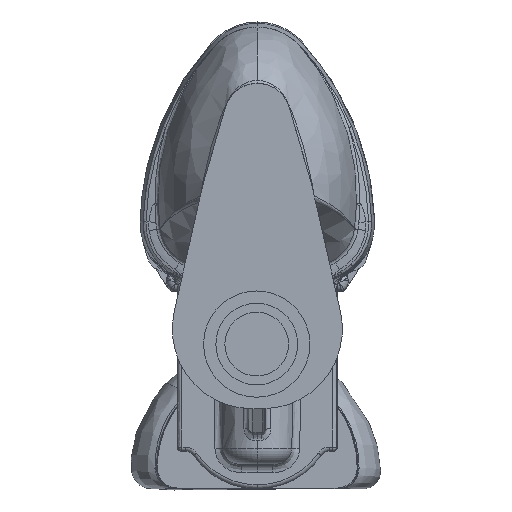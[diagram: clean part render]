
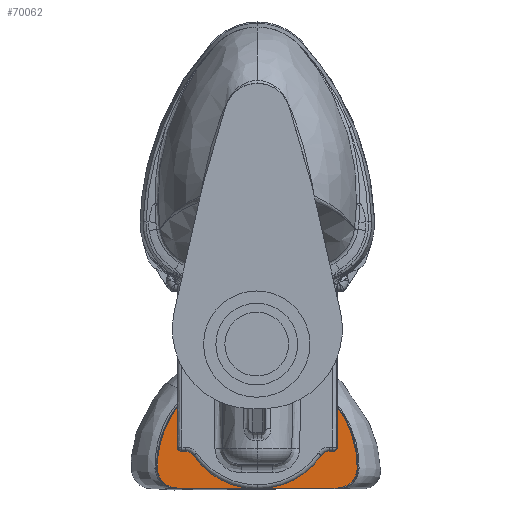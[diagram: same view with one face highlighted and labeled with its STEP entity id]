
A CAD part, front view. The second image highlights one B-rep face of the part: STEP entity #70062.
In plain terms, the highlighted planar face has unit normal (0, -1, 0).
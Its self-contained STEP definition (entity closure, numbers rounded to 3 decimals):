
#527 = DIRECTION ( 'NONE',  ( 1., 0., 0. ) ) ;
#608 = CARTESIAN_POINT ( 'NONE',  ( -97.503, 3., -284. ) ) ;
#1212 = CARTESIAN_POINT ( 'NONE',  ( -113.334, 3., -212.339 ) ) ;
#1602 = CARTESIAN_POINT ( 'NONE',  ( -27.032, 3., -139.003 ) ) ;
#2003 = CARTESIAN_POINT ( 'NONE',  ( -107.04, 3., -199.038 ) ) ;
#2409 = CARTESIAN_POINT ( 'NONE',  ( -20.84, 3., -137.768 ) ) ;
#2812 = CARTESIAN_POINT ( 'NONE',  ( -82.355, 3., -167.844 ) ) ;
#4020 = CARTESIAN_POINT ( 'NONE',  ( -116.215, 3., -220.241 ) ) ;
#4291 = AXIS2_PLACEMENT_3D ( 'NONE', #16171, #34573, #29249 ) ;
#5092 = AXIS2_PLACEMENT_3D ( 'NONE', #6479, #31419, #56344 ) ;
#6479 = CARTESIAN_POINT ( 'NONE',  ( -0.003, 3., -258.21 ) ) ;
#8405 = ORIENTED_EDGE ( 'NONE', *, *, #33271, .T. ) ;
#8541 = CARTESIAN_POINT ( 'NONE',  ( -12.516, 3., -136.622 ) ) ;
#8942 = CARTESIAN_POINT ( 'NONE',  ( -65.663, 3., -155.088 ) ) ;
#9177 = EDGE_CURVE ( 'NONE', #19152, #76435, #75839, .T. ) ;
#10143 = CARTESIAN_POINT ( 'NONE',  ( -122.035, 3., -251.153 ) ) ;
#12254 = CARTESIAN_POINT ( 'NONE',  ( -121.609, 3., -264.864 ) ) ;
#13467 = CARTESIAN_POINT ( 'NONE',  ( -39.169, 3., -142.418 ) ) ;
#13864 = CARTESIAN_POINT ( 'NONE',  ( -8.324, 3., -136.264 ) ) ;
#14265 = CARTESIAN_POINT ( 'NONE',  ( -24.973, 3., -138.555 ) ) ;
#14671 = CARTESIAN_POINT ( 'NONE',  ( 8.484, 3., -136.295 ) ) ;
#16171 = CARTESIAN_POINT ( 'NONE',  ( 97.497, 3., -259.296 ) ) ;
#16651 = VERTEX_POINT ( 'NONE', #28788 ) ;
#16713 = CARTESIAN_POINT ( 'NONE',  ( 122.199, 3., -259.571 ) ) ;
#17238 = VERTEX_POINT ( 'NONE', #42349 ) ;
#19152 = VERTEX_POINT ( 'NONE', #34644 ) ;
#19998 = CARTESIAN_POINT ( 'NONE',  ( -101.533, 3., -190.081 ) ) ;
#21518 = EDGE_CURVE ( 'NONE', #31109, #19152, #79390, .T. ) ;
#21604 = CARTESIAN_POINT ( 'NONE',  ( -104.913, 3., -195.413 ) ) ;
#22014 = CARTESIAN_POINT ( 'NONE',  ( -120.313, 3., -236.543 ) ) ;
#22234 = B_SPLINE_CURVE_WITH_KNOTS ( 'NONE', 3,
 ( #14671, #52272, #51460, #71059, #13864, #8541, #26146, #2409, #14265, #1602, #63733, #76387, #77199, #13467, #39216, #40012, #64925, #57594, #44932, #57196, #8942, #38421, #51075, #58800, #57993, #26537, #2812, #33068, #27749, #26932, #52673, #19998, #77591, #21604, #2003, #69467, #63331, #32277, #1212, #76003, #72669, #4020, #53077, #66133, #22014, #28962, #41619, #46541, #22409, #10143, #54274, #28152, #60420 ),
 .UNSPECIFIED., .F., .F.,
 ( 4, 2, 2, 1, 2, 2, 2, 2, 2, 2, 2, 2, 1, 2, 2, 2, 2, 2, 1, 2, 2, 2, 2, 2, 2, 2, 2, 4 ),
 ( 0., 0.013, 0.019, 0.025, 0.032, 0.038, 0.044, 0.05, 0.063, 0.069, 0.076, 0.082, 0.088, 0.095, 0.101, 0.113, 0.126, 0.132, 0.139, 0.145, 0.151, 0.158, 0.164, 0.176, 0.183, 0.189, 0.195, 0.202 ),
 .UNSPECIFIED. ) ;
#22409 = CARTESIAN_POINT ( 'NONE',  ( -121.896, 3., -249.052 ) ) ;
#22712 = FACE_OUTER_BOUND ( 'NONE', #28123, .T. ) ;
#26146 = CARTESIAN_POINT ( 'NONE',  ( -16.693, 3., -137.088 ) ) ;
#26537 = CARTESIAN_POINT ( 'NONE',  ( -80.785, 3., -166.439 ) ) ;
#26932 = CARTESIAN_POINT ( 'NONE',  ( -95.352, 3., -181.584 ) ) ;
#27515 = ORIENTED_EDGE ( 'NONE', *, *, #9177, .T. ) ;
#27749 = CARTESIAN_POINT ( 'NONE',  ( -89.851, 3., -175.207 ) ) ;
#28052 = DIRECTION ( 'NONE',  ( 0., 0., 1. ) ) ;
#28123 = EDGE_LOOP ( 'NONE', ( #54738, #65666, #27515, #34015, #8405, #43994 ) ) ;
#28152 = CARTESIAN_POINT ( 'NONE',  ( -122.233, 3., -257.464 ) ) ;
#28419 = CARTESIAN_POINT ( 'NONE',  ( -97.503, 3., -259.296 ) ) ;
#28788 = CARTESIAN_POINT ( 'NONE',  ( 97.497, 3., -284. ) ) ;
#28874 = AXIS2_PLACEMENT_3D ( 'NONE', #28419, #53343, #78262 ) ;
#28962 = CARTESIAN_POINT ( 'NONE',  ( -120.667, 3., -238.618 ) ) ;
#29249 = DIRECTION ( 'NONE',  ( 0., 0., 1. ) ) ;
#29866 = CARTESIAN_POINT ( 'NONE',  ( -122.068, 3., -262.245 ) ) ;
#30665 = CARTESIAN_POINT ( 'NONE',  ( -121.274, 3., -266.156 ) ) ;
#31109 = VERTEX_POINT ( 'NONE', #55643 ) ;
#31198 = CARTESIAN_POINT ( 'NONE',  ( 97.497, 3., -284. ) ) ;
#31419 = DIRECTION ( 'NONE',  ( 0., -1., 0. ) ) ;
#32277 = CARTESIAN_POINT ( 'NONE',  ( -111.692, 3., -208.47 ) ) ;
#33068 = CARTESIAN_POINT ( 'NONE',  ( -86.946, 3., -172.17 ) ) ;
#33271 = EDGE_CURVE ( 'NONE', #16651, #55046, #39546, .T. ) ;
#34015 = ORIENTED_EDGE ( 'NONE', *, *, #54006, .T. ) ;
#34573 = DIRECTION ( 'NONE',  ( 0., -1., 0. ) ) ;
#34581 = CARTESIAN_POINT ( 'NONE',  ( -0.003, 3., -258.21 ) ) ;
#34644 = CARTESIAN_POINT ( 'NONE',  ( -120.83, 3., -267.428 ) ) ;
#38421 = CARTESIAN_POINT ( 'NONE',  ( -67.428, 3., -156.233 ) ) ;
#39216 = CARTESIAN_POINT ( 'NONE',  ( -45.115, 3., -144.541 ) ) ;
#39546 = CIRCLE ( 'NONE', #4291, 24.704 ) ;
#40012 = CARTESIAN_POINT ( 'NONE',  ( -48.994, 3., -146.156 ) ) ;
#40999 = EDGE_CURVE ( 'NONE', #55046, #17238, #46877, .T. ) ;
#41619 = CARTESIAN_POINT ( 'NONE',  ( -121.266, 3., -242.779 ) ) ;
#42349 = CARTESIAN_POINT ( 'NONE',  ( 8.484, 3., -136.295 ) ) ;
#43994 = ORIENTED_EDGE ( 'NONE', *, *, #40999, .T. ) ;
#44932 = CARTESIAN_POINT ( 'NONE',  ( -60.258, 3., -151.844 ) ) ;
#46541 = CARTESIAN_POINT ( 'NONE',  ( -121.512, 3., -244.865 ) ) ;
#46877 = CIRCLE ( 'NONE', #5092, 122.21 ) ;
#48459 = DIRECTION ( 'NONE',  ( 0., 1., 0. ) ) ;
#49523 = EDGE_CURVE ( 'NONE', #17238, #31109, #22234, .T. ) ;
#51075 = CARTESIAN_POINT ( 'NONE',  ( -70.901, 3., -158.613 ) ) ;
#51460 = CARTESIAN_POINT ( 'NONE',  ( 0.081, 3., -135.928 ) ) ;
#52272 = CARTESIAN_POINT ( 'NONE',  ( 4.283, 3., -136.003 ) ) ;
#52673 = CARTESIAN_POINT ( 'NONE',  ( -97.928, 3., -184.905 ) ) ;
#53077 = CARTESIAN_POINT ( 'NONE',  ( -118.067, 3., -226.273 ) ) ;
#53249 = AXIS2_PLACEMENT_3D ( 'NONE', #34581, #48459, #28052 ) ;
#53343 = DIRECTION ( 'NONE',  ( 0., -1., 0. ) ) ;
#54006 = EDGE_CURVE ( 'NONE', #76435, #16651, #68783, .T. ) ;
#54274 = CARTESIAN_POINT ( 'NONE',  ( -122.203, 3., -255.359 ) ) ;
#54738 = ORIENTED_EDGE ( 'NONE', *, *, #49523, .T. ) ;
#55046 = VERTEX_POINT ( 'NONE', #16713 ) ;
#55189 = CARTESIAN_POINT ( 'NONE',  ( -122.193, 3., -260.916 ) ) ;
#55643 = CARTESIAN_POINT ( 'NONE',  ( -122.209, 3., -259.569 ) ) ;
#56344 = DIRECTION ( 'NONE',  ( 0., 0., 1. ) ) ;
#57196 = CARTESIAN_POINT ( 'NONE',  ( -62.078, 3., -152.894 ) ) ;
#57594 = CARTESIAN_POINT ( 'NONE',  ( -56.564, 3., -149.837 ) ) ;
#57993 = CARTESIAN_POINT ( 'NONE',  ( -77.579, 3., -163.716 ) ) ;
#58800 = CARTESIAN_POINT ( 'NONE',  ( -74.307, 3., -161.079 ) ) ;
#60420 = CARTESIAN_POINT ( 'NONE',  ( -122.209, 3., -259.569 ) ) ;
#63331 = CARTESIAN_POINT ( 'NONE',  ( -110.821, 3., -206.554 ) ) ;
#63733 = CARTESIAN_POINT ( 'NONE',  ( -31.116, 3., -140.002 ) ) ;
#64787 = VECTOR ( 'NONE', #527, 1000. ) ;
#64925 = CARTESIAN_POINT ( 'NONE',  ( -54.687, 3., -148.879 ) ) ;
#65666 = ORIENTED_EDGE ( 'NONE', *, *, #21518, .T. ) ;
#66133 = CARTESIAN_POINT ( 'NONE',  ( -119.092, 3., -230.349 ) ) ;
#66441 = PLANE ( 'NONE',  #53249 ) ;
#67446 = CARTESIAN_POINT ( 'NONE',  ( -122.209, 3., -259.569 ) ) ;
#68783 = LINE ( 'NONE', #31198, #64787 ) ;
#69467 = CARTESIAN_POINT ( 'NONE',  ( -108.978, 3., -202.769 ) ) ;
#70062 = ADVANCED_FACE ( 'NONE', ( #22712 ), #66441, .F. ) ;
#71059 = CARTESIAN_POINT ( 'NONE',  ( -6.221, 3., -136.139 ) ) ;
#72669 = CARTESIAN_POINT ( 'NONE',  ( -115.545, 3., -218.243 ) ) ;
#75839 = CIRCLE ( 'NONE', #28874, 24.704 ) ;
#76003 = CARTESIAN_POINT ( 'NONE',  ( -114.105, 3., -214.294 ) ) ;
#76387 = CARTESIAN_POINT ( 'NONE',  ( -33.143, 3., -140.553 ) ) ;
#76435 = VERTEX_POINT ( 'NONE', #608 ) ;
#77199 = CARTESIAN_POINT ( 'NONE',  ( -37.169, 3., -141.761 ) ) ;
#77591 = CARTESIAN_POINT ( 'NONE',  ( -102.692, 3., -191.841 ) ) ;
#78262 = DIRECTION ( 'NONE',  ( 0., 0., 1. ) ) ;
#79390 = B_SPLINE_CURVE_WITH_KNOTS ( 'NONE', 3,
 ( #67446, #55189, #29866, #12254, #30665, #80507 ),
 .UNSPECIFIED., .F., .F.,
 ( 4, 2, 4 ),
 ( 0., 0.004, 0.008 ),
 .UNSPECIFIED. ) ;
#80507 = CARTESIAN_POINT ( 'NONE',  ( -120.83, 3., -267.428 ) ) ;
